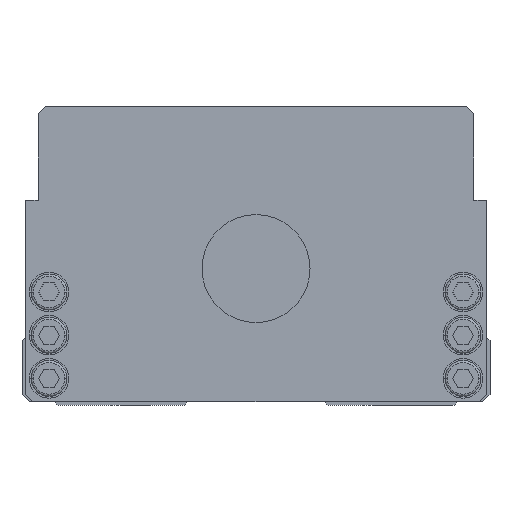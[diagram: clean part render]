
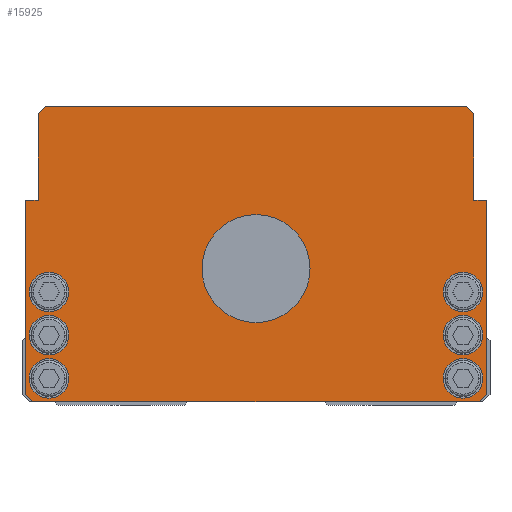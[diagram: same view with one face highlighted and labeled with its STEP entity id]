
A CAD part, front view. The second image highlights one B-rep face of the part: STEP entity #15925.
In plain terms, the highlighted planar face has unit normal (0, -1, 0).
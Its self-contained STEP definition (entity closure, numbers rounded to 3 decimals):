
#5485=VERTEX_POINT('',#16184);
#5529=VERTEX_POINT('',#16234);
#5727=VERTEX_POINT('',#16459);
#6247=EDGE_CURVE('',#11347,#12655,#17033,.T.);
#6485=EDGE_CURVE('',#15345,#9261,#17293,.T.);
#6595=EDGE_CURVE('',#9101,#15345,#17414,.T.);
#6723=VERTEX_POINT('',#17558);
#6823=VERTEX_POINT('',#17672);
#7439=EDGE_CURVE('',#10067,#6823,#18354,.T.);
#7705=EDGE_CURVE('',#10673,#6723,#18650,.T.);
#7719=EDGE_CURVE('',#13829,#15287,#18667,.T.);
#8149=VERTEX_POINT('',#19145);
#8653=EDGE_CURVE('',#8885,#9101,#19713,.T.);
#8827=VERTEX_POINT('',#19905);
#8885=VERTEX_POINT('',#19969);
#9101=VERTEX_POINT('',#20217);
#9261=VERTEX_POINT('',#20400);
#9537=EDGE_CURVE('',#9261,#5727,#20719,.T.);
#9555=VERTEX_POINT('',#20739);
#9643=VERTEX_POINT('',#20835);
#9875=VERTEX_POINT('',#21093);
#9883=EDGE_CURVE('',#6823,#8149,#21101,.T.);
#10067=VERTEX_POINT('',#21316);
#10225=EDGE_CURVE('',#14265,#8885,#21482,.T.);
#10375=EDGE_CURVE('',#12655,#11347,#21651,.T.);
#10591=EDGE_CURVE('',#11467,#11947,#21893,.T.);
#10673=VERTEX_POINT('',#21979);
#11347=VERTEX_POINT('',#22715);
#11405=VERTEX_POINT('',#22780);
#11467=VERTEX_POINT('',#22846);
#11503=EDGE_CURVE('',#15287,#13829,#22885,.T.);
#11557=EDGE_CURVE('',#11813,#11405,#22945,.T.);
#11577=EDGE_CURVE('',#5727,#11813,#22972,.T.);
#11813=VERTEX_POINT('',#23233);
#11947=VERTEX_POINT('',#23387);
#12249=EDGE_CURVE('',#11947,#11467,#23725,.T.);
#12283=EDGE_CURVE('',#9643,#9875,#23760,.T.);
#12605=EDGE_CURVE('',#6723,#10673,#24104,.T.);
#12655=VERTEX_POINT('',#24159);
#12721=EDGE_CURVE('',#8149,#5485,#24230,.T.);
#13047=EDGE_CURVE('',#13405,#5529,#24590,.T.);
#13173=EDGE_CURVE('',#5529,#13405,#24731,.T.);
#13275=EDGE_CURVE('',#8827,#9555,#24847,.T.);
#13405=VERTEX_POINT('',#24992);
#13829=VERTEX_POINT('',#25463);
#13851=EDGE_CURVE('',#11405,#10067,#25492,.T.);
#13999=EDGE_CURVE('',#5485,#14265,#25661,.T.);
#14265=VERTEX_POINT('',#25958);
#15129=EDGE_CURVE('',#9875,#9643,#26932,.T.);
#15287=VERTEX_POINT('',#27110);
#15345=VERTEX_POINT('',#27175);
#15493=EDGE_CURVE('',#9555,#8827,#27337,.T.);
#15925=ADVANCED_FACE('',(#27810,#27811,#27812,#27813,#27814,#27815,#27816,#27817),#27818,.T.);
#16184=CARTESIAN_POINT('',(-60.5,0.0,81.0));
#16234=CARTESIAN_POINT('',(52.0,0.0,19.5));
#16459=CARTESIAN_POINT('',(64.0,0.0,3.0));
#17033=CIRCLE('',#29331,5.5);
#17293=LINE('',#29699,#29700);
#17414=LINE('',#29862,#29863);
#17558=CARTESIAN_POINT('',(-63.0,0.0,19.5));
#17672=CARTESIAN_POINT('',(-64.0,0.0,57.0));
#18354=LINE('',#31166,#31167);
#18650=CIRCLE('',#31587,5.5);
#18667=CIRCLE('',#31609,15.0);
#19145=CARTESIAN_POINT('',(-60.5,0.0,57.0));
#19713=LINE('',#33027,#33028);
#19905=CARTESIAN_POINT('',(63.0,0.0,31.5));
#19969=CARTESIAN_POINT('',(58.5,0.0,83.0));
#20217=CARTESIAN_POINT('',(60.5,0.0,81.0));
#20400=CARTESIAN_POINT('',(64.0,0.0,57.0));
#20719=LINE('',#34410,#34411);
#20739=CARTESIAN_POINT('',(52.0,0.0,31.5));
#20835=CARTESIAN_POINT('',(52.0,0.0,7.5));
#21093=CARTESIAN_POINT('',(63.0,0.0,7.5));
#21101=LINE('',#34940,#34941);
#21316=CARTESIAN_POINT('',(-64.0,0.0,3.0));
#21482=LINE('',#35457,#35458);
#21651=CIRCLE('',#35688,5.5);
#21893=CIRCLE('',#36020,5.5);
#21979=CARTESIAN_POINT('',(-52.0,0.0,19.5));
#22715=CARTESIAN_POINT('',(-63.0,0.0,7.5));
#22780=CARTESIAN_POINT('',(-62.0,0.0,1.0));
#22846=CARTESIAN_POINT('',(-63.0,0.0,31.5));
#22885=CIRCLE('',#37420,15.0);
#22945=LINE('',#37502,#37503);
#22972=LINE('',#37537,#37538);
#23233=CARTESIAN_POINT('',(62.0,0.0,1.0));
#23387=CARTESIAN_POINT('',(-52.0,0.0,31.5));
#23725=CIRCLE('',#38563,5.5);
#23760=CIRCLE('',#38611,5.5);
#24104=CIRCLE('',#39094,5.5);
#24159=CARTESIAN_POINT('',(-52.0,0.0,7.5));
#24230=LINE('',#39260,#39261);
#24590=CIRCLE('',#39772,5.5);
#24731=CIRCLE('',#39965,5.5);
#24847=CIRCLE('',#40109,5.5);
#24992=CARTESIAN_POINT('',(63.0,0.0,19.5));
#25463=CARTESIAN_POINT('',(15.0,0.0,38.0));
#25492=LINE('',#41021,#41022);
#25661=LINE('',#41247,#41248);
#25958=CARTESIAN_POINT('',(-58.5,0.0,83.0));
#26932=CIRCLE('',#42973,5.5);
#27110=CARTESIAN_POINT('',(-15.0,0.0,38.0));
#27175=CARTESIAN_POINT('',(60.5,0.0,57.0));
#27337=CIRCLE('',#43544,5.5);
#27810=FACE_BOUND('',#44206,.T.);
#27811=FACE_BOUND('',#44207,.T.);
#27812=FACE_BOUND('',#44208,.T.);
#27813=FACE_BOUND('',#44209,.T.);
#27814=FACE_BOUND('',#44210,.T.);
#27815=FACE_BOUND('',#44211,.T.);
#27816=FACE_BOUND('',#44212,.T.);
#27817=FACE_OUTER_BOUND('',#44213,.T.);
#27818=PLANE('',#44214);
#29331=AXIS2_PLACEMENT_3D('',#45516,#45517,#45518);
#29699=CARTESIAN_POINT('',(64.0,0.0,57.0));
#29700=VECTOR('',#45833,1.0);
#29862=CARTESIAN_POINT('',(60.5,0.0,57.0));
#29863=VECTOR('',#45962,1.0);
#31166=CARTESIAN_POINT('',(-64.0,0.0,57.0));
#31167=VECTOR('',#47103,1.0);
#31587=AXIS2_PLACEMENT_3D('',#47504,#47505,#47506);
#31609=AXIS2_PLACEMENT_3D('',#47525,#47526,#47527);
#33027=CARTESIAN_POINT('',(60.5,0.0,81.0));
#33028=VECTOR('',#48698,1.);
#34410=CARTESIAN_POINT('',(64.0,0.0,3.0));
#34411=VECTOR('',#49972,1.0);
#34940=CARTESIAN_POINT('',(-60.5,0.0,57.0));
#34941=VECTOR('',#50401,1.0);
#35457=CARTESIAN_POINT('',(58.5,0.0,83.0));
#35458=VECTOR('',#50867,1.0);
#35688=AXIS2_PLACEMENT_3D('',#51065,#51066,#51067);
#36020=AXIS2_PLACEMENT_3D('',#51331,#51332,#51333);
#37420=AXIS2_PLACEMENT_3D('',#52341,#52342,#52343);
#37502=CARTESIAN_POINT('',(-62.0,0.0,1.0));
#37503=VECTOR('',#52408,1.0);
#37537=CARTESIAN_POINT('',(62.0,0.0,1.0));
#37538=VECTOR('',#52451,1.);
#38563=AXIS2_PLACEMENT_3D('',#53264,#53265,#53266);
#38611=AXIS2_PLACEMENT_3D('',#53291,#53292,#53293);
#39094=AXIS2_PLACEMENT_3D('',#53616,#53617,#53618);
#39260=CARTESIAN_POINT('',(-60.5,0.0,81.0));
#39261=VECTOR('',#53742,1.0);
#39772=AXIS2_PLACEMENT_3D('',#54155,#54156,#54157);
#39965=AXIS2_PLACEMENT_3D('',#54317,#54318,#54319);
#40109=AXIS2_PLACEMENT_3D('',#54477,#54478,#54479);
#41021=CARTESIAN_POINT('',(-64.0,0.0,3.0));
#41022=VECTOR('',#55260,1.);
#41247=CARTESIAN_POINT('',(-58.5,0.0,83.0));
#41248=VECTOR('',#55489,1.);
#42973=AXIS2_PLACEMENT_3D('',#57059,#57060,#57061);
#43544=AXIS2_PLACEMENT_3D('',#57480,#57481,#57482);
#44206=EDGE_LOOP('',(#57953,#57954));
#44207=EDGE_LOOP('',(#57955,#57956));
#44208=EDGE_LOOP('',(#57957,#57958));
#44209=EDGE_LOOP('',(#57959,#57960));
#44210=EDGE_LOOP('',(#57961,#57962));
#44211=EDGE_LOOP('',(#57963,#57964));
#44212=EDGE_LOOP('',(#57965,#57966));
#44213=EDGE_LOOP('',(#57967,#57968,#57969,#57970,#57971,#57972,#57973,#57974,#57975,#57976,#57977,#57978));
#44214=AXIS2_PLACEMENT_3D('',#57979,#57980,#57981);
#45516=CARTESIAN_POINT('',(-57.5,0.0,7.5));
#45517=DIRECTION('',(-0.0,1.0,0.0));
#45518=DIRECTION('',(1.0,0.0,0.0));
#45833=DIRECTION('',(1.0,0.0,0.0));
#45962=DIRECTION('',(-0.0,0.0,-1.0));
#47103=DIRECTION('',(0.0,0.0,1.0));
#47504=CARTESIAN_POINT('',(-57.5,0.0,19.5));
#47505=DIRECTION('',(-0.0,1.0,0.0));
#47506=DIRECTION('',(1.0,0.0,0.0));
#47525=CARTESIAN_POINT('',(0.0,0.0,38.0));
#47526=DIRECTION('',(-0.0,1.0,0.0));
#47527=DIRECTION('',(1.0,0.0,0.0));
#48698=DIRECTION('',(0.707,0.0,-0.707));
#49972=DIRECTION('',(-0.0,0.0,-1.0));
#50401=DIRECTION('',(1.0,0.0,0.0));
#50867=DIRECTION('',(1.0,0.0,0.0));
#51065=CARTESIAN_POINT('',(-57.5,0.0,7.5));
#51066=DIRECTION('',(-0.0,1.0,0.0));
#51067=DIRECTION('',(1.0,0.0,0.0));
#51331=CARTESIAN_POINT('',(-57.5,0.0,31.5));
#51332=DIRECTION('',(-0.0,1.0,0.0));
#51333=DIRECTION('',(1.0,0.0,0.0));
#52341=CARTESIAN_POINT('',(0.0,0.0,38.0));
#52342=DIRECTION('',(-0.0,1.0,0.0));
#52343=DIRECTION('',(1.0,0.0,0.0));
#52408=DIRECTION('',(-1.0,0.0,-0.0));
#52451=DIRECTION('',(-0.707,0.0,-0.707));
#53264=CARTESIAN_POINT('',(-57.5,0.0,31.5));
#53265=DIRECTION('',(-0.0,1.0,0.0));
#53266=DIRECTION('',(1.0,0.0,0.0));
#53291=CARTESIAN_POINT('',(57.5,0.0,7.5));
#53292=DIRECTION('',(-0.0,1.0,0.0));
#53293=DIRECTION('',(1.0,0.0,0.0));
#53616=CARTESIAN_POINT('',(-57.5,0.0,19.5));
#53617=DIRECTION('',(-0.0,1.0,0.0));
#53618=DIRECTION('',(1.0,0.0,0.0));
#53742=DIRECTION('',(0.0,0.0,1.0));
#54155=CARTESIAN_POINT('',(57.5,0.0,19.5));
#54156=DIRECTION('',(-0.0,1.0,0.0));
#54157=DIRECTION('',(1.0,0.0,0.0));
#54317=CARTESIAN_POINT('',(57.5,0.0,19.5));
#54318=DIRECTION('',(-0.0,1.0,0.0));
#54319=DIRECTION('',(1.0,0.0,0.0));
#54477=CARTESIAN_POINT('',(57.5,0.0,31.5));
#54478=DIRECTION('',(-0.0,1.0,0.0));
#54479=DIRECTION('',(1.0,0.0,0.0));
#55260=DIRECTION('',(-0.707,0.0,0.707));
#55489=DIRECTION('',(0.707,0.0,0.707));
#57059=CARTESIAN_POINT('',(57.5,0.0,7.5));
#57060=DIRECTION('',(-0.0,1.0,0.0));
#57061=DIRECTION('',(1.0,0.0,0.0));
#57480=CARTESIAN_POINT('',(57.5,0.0,31.5));
#57481=DIRECTION('',(-0.0,1.0,0.0));
#57482=DIRECTION('',(1.0,0.0,0.0));
#57953=ORIENTED_EDGE('',*,*,#7719,.T.);
#57954=ORIENTED_EDGE('',*,*,#11503,.T.);
#57955=ORIENTED_EDGE('',*,*,#13275,.T.);
#57956=ORIENTED_EDGE('',*,*,#15493,.T.);
#57957=ORIENTED_EDGE('',*,*,#13047,.T.);
#57958=ORIENTED_EDGE('',*,*,#13173,.T.);
#57959=ORIENTED_EDGE('',*,*,#15129,.T.);
#57960=ORIENTED_EDGE('',*,*,#12283,.T.);
#57961=ORIENTED_EDGE('',*,*,#12249,.T.);
#57962=ORIENTED_EDGE('',*,*,#10591,.T.);
#57963=ORIENTED_EDGE('',*,*,#7705,.T.);
#57964=ORIENTED_EDGE('',*,*,#12605,.T.);
#57965=ORIENTED_EDGE('',*,*,#10375,.T.);
#57966=ORIENTED_EDGE('',*,*,#6247,.T.);
#57967=ORIENTED_EDGE('',*,*,#13851,.F.);
#57968=ORIENTED_EDGE('',*,*,#11557,.F.);
#57969=ORIENTED_EDGE('',*,*,#11577,.F.);
#57970=ORIENTED_EDGE('',*,*,#9537,.F.);
#57971=ORIENTED_EDGE('',*,*,#6485,.F.);
#57972=ORIENTED_EDGE('',*,*,#6595,.F.);
#57973=ORIENTED_EDGE('',*,*,#8653,.F.);
#57974=ORIENTED_EDGE('',*,*,#10225,.F.);
#57975=ORIENTED_EDGE('',*,*,#13999,.F.);
#57976=ORIENTED_EDGE('',*,*,#12721,.F.);
#57977=ORIENTED_EDGE('',*,*,#9883,.F.);
#57978=ORIENTED_EDGE('',*,*,#7439,.F.);
#57979=CARTESIAN_POINT('',(0.,0.0,41.562));
#57980=DIRECTION('',(0.0,-1.0,0.0));
#57981=DIRECTION('',(1.0,0.0,0.0));
